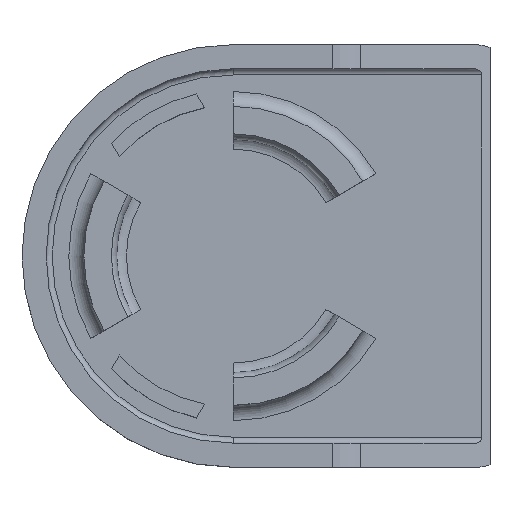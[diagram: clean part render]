
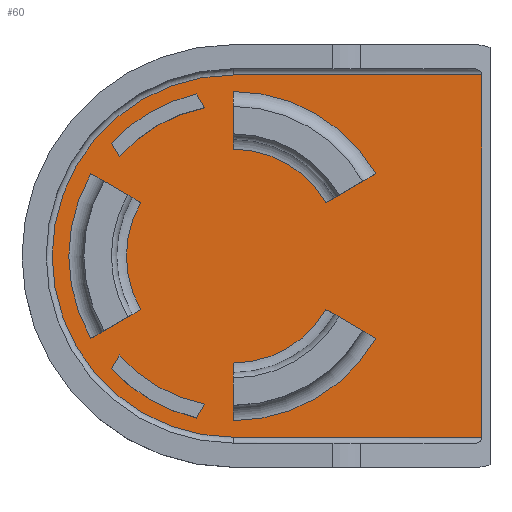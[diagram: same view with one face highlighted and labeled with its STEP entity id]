
A CAD part, top view. The second image highlights one B-rep face of the part: STEP entity #60.
In plain terms, the highlighted planar face has unit normal (0, 0, 1).
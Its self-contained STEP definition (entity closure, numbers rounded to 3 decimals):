
#60=ADVANCED_FACE('',(#176,#178,#180,#182,#184,#186),#188,.T.);
#176=FACE_BOUND('',#177,.T.);
#177=EDGE_LOOP('',(#564,#565,#566,#567));
#178=FACE_BOUND('',#179,.T.);
#179=EDGE_LOOP('',(#568,#569,#570,#571));
#180=FACE_BOUND('',#181,.T.);
#181=EDGE_LOOP('',(#572,#573,#574,#575));
#182=FACE_BOUND('',#183,.T.);
#183=EDGE_LOOP('',(#576,#577,#578,#579));
#184=FACE_BOUND('',#185,.T.);
#185=EDGE_LOOP('',(#580,#581,#582,#583));
#186=FACE_BOUND('',#187,.T.);
#187=EDGE_LOOP('',(#584,#585,#586,#587));
#188=PLANE('',#189);
#189=AXIS2_PLACEMENT_3D('',#190,#191,#192);
#190=CARTESIAN_POINT('',(0.,0.,1.6));
#191=DIRECTION('',(0.,0.,1.));
#192=DIRECTION('',(-1.,0.,0.));
#564=ORIENTED_EDGE('',*,*,#834,.T.);
#565=ORIENTED_EDGE('',*,*,#835,.T.);
#566=ORIENTED_EDGE('',*,*,#836,.T.);
#567=ORIENTED_EDGE('',*,*,#837,.T.);
#568=ORIENTED_EDGE('',*,*,#838,.F.);
#569=ORIENTED_EDGE('',*,*,#839,.F.);
#570=ORIENTED_EDGE('',*,*,#840,.F.);
#571=ORIENTED_EDGE('',*,*,#841,.F.);
#572=ORIENTED_EDGE('',*,*,#842,.F.);
#573=ORIENTED_EDGE('',*,*,#825,.F.);
#574=ORIENTED_EDGE('',*,*,#843,.F.);
#575=ORIENTED_EDGE('',*,*,#811,.F.);
#576=ORIENTED_EDGE('',*,*,#844,.F.);
#577=ORIENTED_EDGE('',*,*,#845,.F.);
#578=ORIENTED_EDGE('',*,*,#846,.F.);
#579=ORIENTED_EDGE('',*,*,#847,.F.);
#580=ORIENTED_EDGE('',*,*,#848,.F.);
#581=ORIENTED_EDGE('',*,*,#849,.F.);
#582=ORIENTED_EDGE('',*,*,#850,.F.);
#583=ORIENTED_EDGE('',*,*,#851,.F.);
#584=ORIENTED_EDGE('',*,*,#852,.F.);
#585=ORIENTED_EDGE('',*,*,#801,.F.);
#586=ORIENTED_EDGE('',*,*,#853,.F.);
#587=ORIENTED_EDGE('',*,*,#803,.F.);
#801=EDGE_CURVE('',#950,#938,#952,.T.);
#803=EDGE_CURVE('',#953,#956,#957,.T.);
#811=EDGE_CURVE('',#969,#972,#973,.T.);
#825=EDGE_CURVE('',#998,#986,#1000,.T.);
#834=EDGE_CURVE('',#1009,#1010,#1011,.F.);
#835=EDGE_CURVE('',#1010,#1012,#1013,.T.);
#836=EDGE_CURVE('',#1012,#1014,#1015,.T.);
#837=EDGE_CURVE('',#1014,#1009,#1016,.T.);
#838=EDGE_CURVE('',#1017,#1018,#1019,.T.);
#839=EDGE_CURVE('',#1020,#1017,#1021,.T.);
#840=EDGE_CURVE('',#1022,#1020,#1023,.T.);
#841=EDGE_CURVE('',#1018,#1022,#1024,.T.);
#842=EDGE_CURVE('',#986,#969,#1025,.T.);
#843=EDGE_CURVE('',#972,#998,#1026,.T.);
#844=EDGE_CURVE('',#1027,#1028,#1029,.T.);
#845=EDGE_CURVE('',#1030,#1027,#1031,.T.);
#846=EDGE_CURVE('',#1032,#1030,#1033,.T.);
#847=EDGE_CURVE('',#1028,#1032,#1034,.T.);
#848=EDGE_CURVE('',#1035,#1036,#1037,.T.);
#849=EDGE_CURVE('',#1038,#1035,#1039,.T.);
#850=EDGE_CURVE('',#1040,#1038,#1041,.T.);
#851=EDGE_CURVE('',#1036,#1040,#1042,.T.);
#852=EDGE_CURVE('',#938,#953,#1043,.T.);
#853=EDGE_CURVE('',#956,#950,#1044,.T.);
#938=VERTEX_POINT('',#1175);
#950=VERTEX_POINT('',#1201);
#952=LINE('',#1206,#1207);
#953=VERTEX_POINT('',#1209);
#956=VERTEX_POINT('',#1215);
#957=LINE('',#1216,#1217);
#969=VERTEX_POINT('',#1244);
#972=VERTEX_POINT('',#1250);
#973=LINE('',#1251,#1252);
#986=VERTEX_POINT('',#1280);
#998=VERTEX_POINT('',#1306);
#1000=LINE('',#1311,#1312);
#1009=VERTEX_POINT('',#1346);
#1010=VERTEX_POINT('',#1347);
#1011=LINE('',#1348,#1349);
#1012=VERTEX_POINT('',#1351);
#1013=LINE('',#1352,#1353);
#1014=VERTEX_POINT('',#1355);
#1015=CIRCLE('',#1356,12.);
#1016=LINE('',#1360,#1361);
#1017=VERTEX_POINT('',#1363);
#1018=VERTEX_POINT('',#1364);
#1019=CIRCLE('',#1365,7.083);
#1020=VERTEX_POINT('',#1369);
#1021=LINE('',#1370,#1371);
#1022=VERTEX_POINT('',#1373);
#1023=CIRCLE('',#1374,10.9);
#1024=LINE('',#1378,#1379);
#1025=CIRCLE('',#1381,7.083);
#1026=CIRCLE('',#1385,10.9);
#1027=VERTEX_POINT('',#1389);
#1028=VERTEX_POINT('',#1390);
#1029=LINE('',#1391,#1392);
#1030=VERTEX_POINT('',#1394);
#1031=CIRCLE('',#1395,10.);
#1032=VERTEX_POINT('',#1399);
#1033=LINE('',#1400,#1401);
#1034=CIRCLE('',#1403,11.);
#1035=VERTEX_POINT('',#1407);
#1036=VERTEX_POINT('',#1408);
#1037=LINE('',#1409,#1410);
#1038=VERTEX_POINT('',#1412);
#1039=CIRCLE('',#1413,10.);
#1040=VERTEX_POINT('',#1417);
#1041=LINE('',#1418,#1419);
#1042=CIRCLE('',#1421,11.);
#1043=CIRCLE('',#1425,7.083);
#1044=CIRCLE('',#1429,10.9);
#1175=CARTESIAN_POINT('',(6.134,-3.541,1.6));
#1201=CARTESIAN_POINT('',(9.44,-5.45,1.6));
#1206=CARTESIAN_POINT('',(9.44,-5.45,1.6));
#1207=VECTOR('',#1208,1.);
#1208=DIRECTION('',(-0.866,0.5,0.));
#1209=CARTESIAN_POINT('',(0.,-7.083,1.6));
#1215=CARTESIAN_POINT('',(0.,-10.9,1.6));
#1216=CARTESIAN_POINT('',(0.,-7.083,1.6));
#1217=VECTOR('',#1218,1.);
#1218=DIRECTION('',(0.,-1.,0.));
#1244=CARTESIAN_POINT('',(6.134,3.541,1.6));
#1250=CARTESIAN_POINT('',(9.44,5.45,1.6));
#1251=CARTESIAN_POINT('',(6.134,3.541,1.6));
#1252=VECTOR('',#1253,1.);
#1253=DIRECTION('',(0.866,0.5,0.));
#1280=CARTESIAN_POINT('',(0.,7.083,1.6));
#1306=CARTESIAN_POINT('',(0.,10.9,1.6));
#1311=CARTESIAN_POINT('',(0.,10.9,1.6));
#1312=VECTOR('',#1313,1.);
#1313=DIRECTION('',(0.,-1.,0.));
#1346=CARTESIAN_POINT('',(16.461,-12.,1.6));
#1347=CARTESIAN_POINT('',(16.461,12.,1.6));
#1348=CARTESIAN_POINT('',(16.461,12.,1.6));
#1349=VECTOR('',#1350,1.);
#1350=DIRECTION('',(0.,-1.,0.));
#1351=CARTESIAN_POINT('',(0.,12.,1.6));
#1352=CARTESIAN_POINT('',(16.461,12.,1.6));
#1353=VECTOR('',#1354,1.);
#1354=DIRECTION('',(-1.,0.,0.));
#1355=CARTESIAN_POINT('',(0.,-12.,1.6));
#1356=AXIS2_PLACEMENT_3D('',#1357,#1358,#1359);
#1357=CARTESIAN_POINT('',(0.,0.,1.6));
#1358=DIRECTION('',(0.,0.,1.));
#1359=DIRECTION('',(0.,1.,0.));
#1360=CARTESIAN_POINT('',(0.,-12.,1.6));
#1361=VECTOR('',#1362,1.);
#1362=DIRECTION('',(1.,0.,0.));
#1363=CARTESIAN_POINT('',(-6.134,-3.541,1.6));
#1364=CARTESIAN_POINT('',(-6.134,3.541,1.6));
#1365=AXIS2_PLACEMENT_3D('',#1366,#1367,#1368);
#1366=CARTESIAN_POINT('',(0.,0.,1.6));
#1367=DIRECTION('',(-0.,0.,-1.));
#1368=DIRECTION('',(-0.866,-0.5,0.));
#1369=CARTESIAN_POINT('',(-9.44,-5.45,1.6));
#1370=CARTESIAN_POINT('',(-9.44,-5.45,1.6));
#1371=VECTOR('',#1372,1.);
#1372=DIRECTION('',(0.866,0.5,0.));
#1373=CARTESIAN_POINT('',(-9.44,5.45,1.6));
#1374=AXIS2_PLACEMENT_3D('',#1375,#1376,#1377);
#1375=CARTESIAN_POINT('',(0.,0.,1.6));
#1376=DIRECTION('',(0.,0.,1.));
#1377=DIRECTION('',(-0.866,0.5,0.));
#1378=CARTESIAN_POINT('',(-6.134,3.541,1.6));
#1379=VECTOR('',#1380,1.);
#1380=DIRECTION('',(-0.866,0.5,0.));
#1381=AXIS2_PLACEMENT_3D('',#1382,#1383,#1384);
#1382=CARTESIAN_POINT('',(0.,0.,1.6));
#1383=DIRECTION('',(0.,-0.,-1.));
#1384=DIRECTION('',(0.,1.,0.));
#1385=AXIS2_PLACEMENT_3D('',#1386,#1387,#1388);
#1386=CARTESIAN_POINT('',(0.,0.,1.6));
#1387=DIRECTION('',(0.,0.,1.));
#1388=DIRECTION('',(0.866,0.5,0.));
#1389=CARTESIAN_POINT('',(-7.543,-6.565,1.6));
#1390=CARTESIAN_POINT('',(-8.069,-7.476,1.6));
#1391=CARTESIAN_POINT('',(-7.543,-6.565,1.6));
#1392=VECTOR('',#1393,1.);
#1393=DIRECTION('',(-0.5,-0.866,0.));
#1394=CARTESIAN_POINT('',(-1.914,-9.815,1.6));
#1395=AXIS2_PLACEMENT_3D('',#1396,#1397,#1398);
#1396=CARTESIAN_POINT('',(0.,0.,1.6));
#1397=DIRECTION('',(-0.,0.,-1.));
#1398=DIRECTION('',(-0.191,-0.982,0.));
#1399=CARTESIAN_POINT('',(-2.44,-10.726,1.6));
#1400=CARTESIAN_POINT('',(-2.44,-10.726,1.6));
#1401=VECTOR('',#1402,1.);
#1402=DIRECTION('',(0.5,0.866,0.));
#1403=AXIS2_PLACEMENT_3D('',#1404,#1405,#1406);
#1404=CARTESIAN_POINT('',(0.,0.,1.6));
#1405=DIRECTION('',(0.,0.,1.));
#1406=DIRECTION('',(-0.734,-0.68,0.));
#1407=CARTESIAN_POINT('',(-1.914,9.815,1.6));
#1408=CARTESIAN_POINT('',(-2.44,10.726,1.6));
#1409=CARTESIAN_POINT('',(-1.914,9.815,1.6));
#1410=VECTOR('',#1411,1.);
#1411=DIRECTION('',(-0.5,0.866,0.));
#1412=CARTESIAN_POINT('',(-7.543,6.565,1.6));
#1413=AXIS2_PLACEMENT_3D('',#1414,#1415,#1416);
#1414=CARTESIAN_POINT('',(0.,0.,1.6));
#1415=DIRECTION('',(-0.,0.,-1.));
#1416=DIRECTION('',(-0.754,0.657,0.));
#1417=CARTESIAN_POINT('',(-8.069,7.476,1.6));
#1418=CARTESIAN_POINT('',(-8.069,7.476,1.6));
#1419=VECTOR('',#1420,1.);
#1420=DIRECTION('',(0.5,-0.866,0.));
#1421=AXIS2_PLACEMENT_3D('',#1422,#1423,#1424);
#1422=CARTESIAN_POINT('',(0.,0.,1.6));
#1423=DIRECTION('',(0.,0.,1.));
#1424=DIRECTION('',(-0.222,0.975,0.));
#1425=AXIS2_PLACEMENT_3D('',#1426,#1427,#1428);
#1426=CARTESIAN_POINT('',(0.,0.,1.6));
#1427=DIRECTION('',(0.,-0.,-1.));
#1428=DIRECTION('',(0.866,-0.5,0.));
#1429=AXIS2_PLACEMENT_3D('',#1430,#1431,#1432);
#1430=CARTESIAN_POINT('',(0.,0.,1.6));
#1431=DIRECTION('',(0.,0.,1.));
#1432=DIRECTION('',(0.,-1.,0.));
